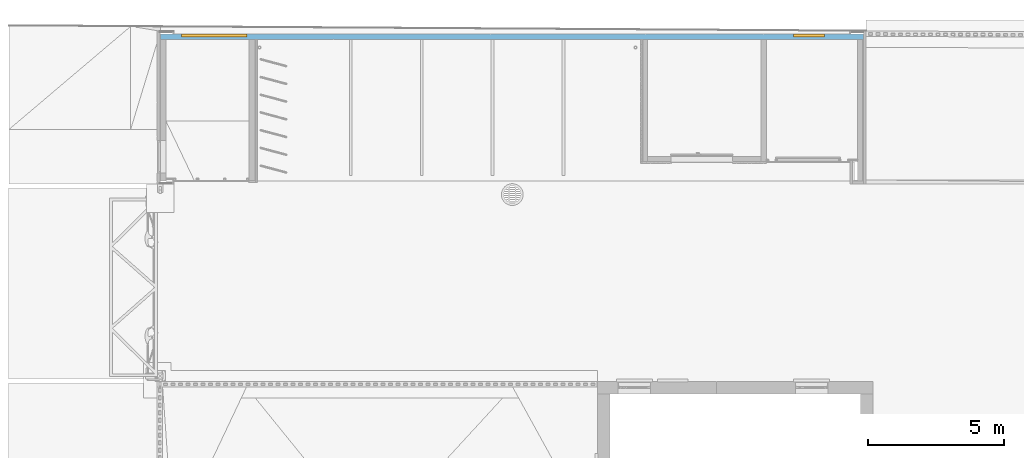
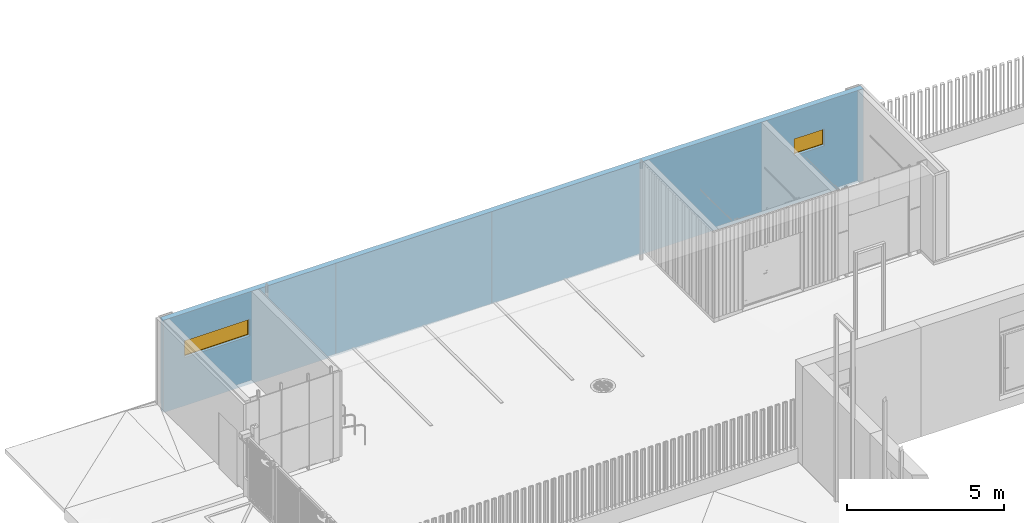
# One storey, part 59 of 77: 2 windows, 9 openings, plus 1 element that does not belong to this part.
"""IFC2X3 building model written with IfcOpenShell, lengths in millimetres."""

from ifc_helpers import new_model, entity, si_unit, converted_unit, derived_unit, direction, frame, frame_2d, origin, origin_2d_with_axis, place, context, subcontext, project, spatial, rectangle, extrude, faceted_brep, source, transform, mapped, material, material_list, layer, layer_set, layer_usage, type_object, type_shapes, element, fill, save


model = new_model("IFC2X3")

# Units and contexts
model_context = context("Model", 3, precision=0.01, world=origin(), true_north=direction((6.12303176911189e-17, 1.0)))
body_context = subcontext(model_context, "Body", "Model", "MODEL_VIEW")
ifc_project = project(units=[si_unit("LENGTHUNIT", "METRE", prefix="MILLI"), si_unit("AREAUNIT", "SQUARE_METRE"), si_unit("VOLUMEUNIT", "CUBIC_METRE"), converted_unit("PLANEANGLEUNIT", "DEGREE", entity("IfcRatioMeasure", 0.0174532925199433), si_unit("PLANEANGLEUNIT", "RADIAN"), dimensions=[0, 0, 0, 0, 0, 0, 0]), si_unit("MASSUNIT", "GRAM", prefix="KILO"), derived_unit("MASSDENSITYUNIT", [(si_unit("MASSUNIT", "GRAM", prefix="KILO"), 1), (si_unit("LENGTHUNIT", "METRE"), -3)]), si_unit("TIMEUNIT", "SECOND"), si_unit("FREQUENCYUNIT", "HERTZ"), si_unit("THERMODYNAMICTEMPERATUREUNIT", "DEGREE_CELSIUS"), derived_unit("THERMALTRANSMITTANCEUNIT", [(si_unit("MASSUNIT", "GRAM", prefix="KILO"), 1), (si_unit("THERMODYNAMICTEMPERATUREUNIT", "KELVIN"), -1), (si_unit("TIMEUNIT", "SECOND"), -3)]), derived_unit("VOLUMETRICFLOWRATEUNIT", [(si_unit("LENGTHUNIT", "METRE"), 3), (si_unit("TIMEUNIT", "SECOND"), -1)]), si_unit("ELECTRICCURRENTUNIT", "AMPERE"), si_unit("ELECTRICVOLTAGEUNIT", "VOLT"), si_unit("POWERUNIT", "WATT"), si_unit("FORCEUNIT", "NEWTON", prefix="KILO"), si_unit("ILLUMINANCEUNIT", "LUX"), si_unit("LUMINOUSFLUXUNIT", "LUMEN"), si_unit("LUMINOUSINTENSITYUNIT", "CANDELA"), derived_unit("USERDEFINED", [(si_unit("MASSUNIT", "GRAM", prefix="KILO"), -1), (si_unit("LENGTHUNIT", "METRE"), -2), (si_unit("TIMEUNIT", "SECOND"), 3), (si_unit("LUMINOUSFLUXUNIT", "LUMEN"), 1)]), derived_unit("LINEARVELOCITYUNIT", [(si_unit("LENGTHUNIT", "METRE"), 1), (si_unit("TIMEUNIT", "SECOND"), -1)]), si_unit("PRESSUREUNIT", "PASCAL"), derived_unit("USERDEFINED", [(si_unit("LENGTHUNIT", "METRE"), -2), (si_unit("MASSUNIT", "GRAM", prefix="KILO"), 1), (si_unit("TIMEUNIT", "SECOND"), -2)])], contexts=[model_context])

# Site, building, storey
site_placement = place(None, origin())
site = spatial("IfcSite", under=ifc_project, at=site_placement, Name="Default", CompositionType="ELEMENT")
building_placement = place(site_placement, origin())
building = spatial("IfcBuilding", under=site, at=building_placement, CompositionType="ELEMENT")
storey_placement = place(building_placement, origin())
storey = spatial("IfcBuildingStorey", under=building, at=storey_placement, Name="1. KORRUS", CompositionType="ELEMENT", Elevation=0.0)

# Wall, openings, windows
ifc_material_1 = material(Name="RECKLI 1 173 THUR by Polantis 2016-toon3")
ifc_layer_1 = layer(ifc_material_1, 30.0)
ifc_material_2 = material(Name="Default New Material(1)")
ifc_layer_2 = layer(ifc_material_2, 170.0)
ifc_layer_set = layer_set([ifc_layer_1, ifc_layer_2], Name="Basic Wall:VS-10_rb200_terracota")
ifc_layer_usage = layer_usage(ifc_layer_set, "AXIS2", "NEGATIVE", 100.0)
wall_type = type_object("IfcWallType", Name="Basic Wall:VS-10_rb200_terracota", PredefinedType="STANDARD", material=ifc_layer_set)
wall_placement = place(storey_placement, frame((-16475.2351867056, 40700.0994344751, -200.0)))
wall = element("IfcWallStandardCase", 1, at=wall_placement, inside=storey, type_object=wall_type, material=ifc_layer_usage, Name="Basic Wall:VS-10_rb200_terracota", ObjectType="Basic Wall:VS-10_rb200_terracota", context=body_context, shape_type="SweptSolid", body=[
    extrude(rectangle(XDim=25775.0, YDim=200.000000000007, at=frame_2d((12887.5, 0.0), x_axis=(-1.0, 0.0))), origin(), (0.0, 0.0, 1.0), 3600.0),
])
opening_1_placement = place(wall_placement, origin())
element("IfcOpeningElement", 2, at=opening_1_placement, cuts=wall, Name="Basic Wall:VS-10_rb200_terracota", ObjectType="Recess", context=body_context, shape_type="SweptSolid", body=[
    extrude(rectangle(XDim=400.0, YDim=25775.0, at=frame_2d((0.0, 0.0), x_axis=(0.0, 1.0))), frame((12887.5, 80.0, 50.0), z_axis=(0.0, 1.0, 0.0), x_axis=(1.0, 0.0, 0.0)), (0.0, 0.0, 1.0), 20.0000000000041),
])
opening_2_placement = place(wall_placement, origin())
element("IfcOpeningElement", 3, at=opening_2_placement, cuts=wall, Name="Basic Wall:VS-10_rb200_terracota", ObjectType="Recess", context=body_context, shape_type="SweptSolid", body=[
    extrude(rectangle(XDim=3600.0, YDim=15.9999999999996, at=origin_2d_with_axis()), frame((22120.0051867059, 80.0, 1800.0), z_axis=(0.0, 1.0, 0.0), x_axis=(0.0, 0.0, 1.0)), (0.0, 0.0, 1.0), 20.0000000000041),
])
opening_3_placement = place(wall_placement, origin())
element("IfcOpeningElement", 4, at=opening_3_placement, cuts=wall, Name="Basic Wall:VS-10_rb200_terracota", ObjectType="Recess", context=body_context, shape_type="SweptSolid", body=[
    extrude(rectangle(XDim=3600.0, YDim=15.9999999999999, at=frame_2d((0.0, -1.35447209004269e-13), x_axis=(1.0, 0.0))), frame((17769.997856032, 80.0, 1800.0), z_axis=(0.0, 1.0, 0.0), x_axis=(0.0, 0.0, 1.0)), (0.0, 0.0, 1.0), 20.0000000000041),
])
opening_4_placement = place(wall_placement, origin())
element("IfcOpeningElement", 5, at=opening_4_placement, cuts=wall, Name="Basic Wall:VS-10_rb200_terracota", ObjectType="Recess", context=body_context, shape_type="SweptSolid", body=[
    extrude(rectangle(XDim=3600.0, YDim=16.0000000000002, at=frame_2d((0.0, 2.70450328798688e-13), x_axis=(1.0, 0.0))), frame((12082.0008264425, 80.0, 1800.0), z_axis=(0.0, 1.0, 0.0), x_axis=(0.0, 0.0, 1.0)), (0.0, 0.0, 1.0), 20.0000000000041),
])
opening_5_placement = place(wall_placement, origin())
element("IfcOpeningElement", 6, at=opening_5_placement, cuts=wall, Name="Basic Wall:VS-10_rb200_terracota", ObjectType="Recess", context=body_context, shape_type="SweptSolid", body=[
    extrude(rectangle(XDim=3600.0, YDim=16.0000000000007, at=origin_2d_with_axis()), frame((6341.00082644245, 80.0, 1800.0), z_axis=(0.0, 1.0, 0.0), x_axis=(0.0, 0.0, 1.0)), (0.0, 0.0, 1.0), 20.0000000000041),
])
opening_6_placement = place(wall_placement, origin())
element("IfcOpeningElement", 7, at=opening_6_placement, cuts=wall, Name="Basic Wall:VS-10_rb200_terracota", ObjectType="Recess", context=body_context, shape_type="SweptSolid", body=[
    extrude(rectangle(XDim=3600.0, YDim=16.0000000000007, at=frame_2d((0.0, 1.08268949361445e-12), x_axis=(1.0, 0.0))), frame((6340.31089902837, -100.0, 1800.0), z_axis=(0.0, 1.0, 0.0), x_axis=(0.0, 0.0, -1.0)), (0.0, 0.0, 1.0), 20.0000000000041),
])
opening_7_placement = place(wall_placement, origin())
element("IfcOpeningElement", 8, at=opening_7_placement, cuts=wall, Name="Basic Wall:VS-10_rb200_terracota", ObjectType="Recess", context=body_context, shape_type="SweptSolid", body=[
    extrude(rectangle(XDim=3600.0, YDim=16.0000000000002, at=frame_2d((0.0, -2.70450328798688e-13), x_axis=(1.0, 0.0))), frame((12081.703389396, -100.0, 1800.0), z_axis=(0.0, 1.0, 0.0), x_axis=(0.0, 0.0, -1.0)), (0.0, 0.0, 1.0), 20.0000000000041),
])
opening_8_placement = place(wall_placement, frame((770.0, -100.0, 1872.0)))
opening_8 = element("IfcOpeningElement", 9, at=opening_8_placement, cuts=wall, Name="vent-rest2:2400x660:1", ObjectType="Opening", context=body_context, shape_type="SweptSolid", body=[
    extrude(rectangle(XDim=659.999999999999, YDim=2400.0, at=frame_2d((330.0, 1200.0), x_axis=(-1.0, 0.0))), frame((0.0, 0.0, 0.0), z_axis=(0.0, 1.0, 0.0), x_axis=(0.0, 0.0, 1.0)), (0.0, 0.0, 1.0), 200.0),
])
opening_9_placement = place(wall_placement, frame((23211.7593711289, -100.0, 1872.0)))
opening_9 = element("IfcOpeningElement", 10, at=opening_9_placement, cuts=wall, Name="vent-rest2:1127x660:1", ObjectType="Opening", context=body_context, shape_type="SweptSolid", body=[
    extrude(rectangle(XDim=659.999999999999, YDim=1127.0, at=frame_2d((330.0, 563.500000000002), x_axis=(-1.0, 0.0))), frame((0.0, 0.0, 0.0), z_axis=(0.0, 1.0, 0.0), x_axis=(0.0, 0.0, 1.0)), (0.0, 0.0, 1.0), 200.0),
])
ifc_material_3 = material(Name="must")
ifc_material_4 = material(Name="Default New Material-al-profiilid")
ifc_material_list_1 = material_list([ifc_material_3, ifc_material_4])
ifc_material_list_2 = material_list([ifc_material_3, ifc_material_4])
window_style_1 = type_object("IfcWindowStyle", Name="1127x660", ConstructionType="NOTDEFINED", OperationType="NOTDEFINED", ParameterTakesPrecedence=False, Sizeable=False, material=ifc_material_list_2)
shared_shape_1 = source(origin(), body_context, "Body", "Brep", [
    faceted_brep([(0.0, 120.0, 655.0), (0.0, 120.0, 5.0), (1127.0, 120.0, 5.0), (1127.0, 120.0, 655.0), (0.0, 200.0, 655.0), (1127.0, 200.0, 655.0), (1127.0, 200.0, 5.0), (0.0, 200.0, 5.0)], [[[0, 1, 2, 3]], [[4, 5, 6, 7]], [[1, 0, 4, 7]], [[2, 1, 7, 6]], [[3, 2, 6, 5]], [[0, 3, 5, 4]]]),
    faceted_brep([(5.0, 205.0, 655.0), (5.0, 95.0, 655.0), (5.0, 95.0, 5.0), (5.0, 205.0, 5.0), (0.0, 95.0, 0.0), (1127.0, 95.0, 0.0), (1127.0, 95.0, 660.0), (0.0, 95.0, 660.0), (1122.0, 95.0, 655.0), (1122.0, 95.0, 5.0), (1122.0, 205.0, 5.0), (1122.0, 205.0, 655.0), (-40.0, 205.0, 700.0), (1167.0, 205.0, 700.0), (1167.0, 205.0, -40.0), (-40.0, 205.0, -40.0), (-40.0, 200.0, 700.0), (-40.0, 200.0, -40.0), (1167.0, 200.0, -40.0), (1167.0, 200.0, 700.0), (0.0, 200.0, 660.0), (1127.0, 200.0, 660.0), (1127.0, 200.0, 0.0), (0.0, 200.0, 0.0)], [[[0, 1, 2, 3]], [[4, 5, 6, 7], [1, 8, 9, 2]], [[3, 2, 9, 10]], [[3, 10, 11, 0], [12, 13, 14, 15]], [[16, 12, 15, 17]], [[17, 15, 14, 18]], [[17, 18, 19, 16], [20, 21, 22, 23]], [[7, 20, 23, 4]], [[4, 23, 22, 5]], [[10, 9, 8, 11]], [[18, 14, 13, 19]], [[5, 22, 21, 6]], [[11, 8, 1, 0]], [[19, 13, 12, 16]], [[6, 21, 20, 7]]], outer=[[True], [True, False], [True], [False, True], [True], [True], [True, False], [True], [True], [True], [True], [True], [True], [True], [True]]),
])
type_shapes(window_style_1, [shared_shape_1])
window_1_placement = place(opening_9_placement, origin())
window_1 = element("IfcWindow", 11, at=window_1_placement, inside=storey, type_object=window_style_1, material=ifc_material_list_1, Name="vent-rest2:1127x660", ObjectType="1127x660", OverallHeight=659.999999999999, OverallWidth=1127.0, context=body_context, shape_type="MappedRepresentation", body=[
    mapped(shared_shape_1, transform((0.0, 0.0, 0.0), scale=1.0)),
])
fill(opening_9, window_1)
ifc_material_list_3 = material_list([ifc_material_3, ifc_material_4])
ifc_material_list_4 = material_list([ifc_material_3, ifc_material_4])
window_style_2 = type_object("IfcWindowStyle", Name="2400x660", ConstructionType="NOTDEFINED", OperationType="NOTDEFINED", ParameterTakesPrecedence=False, Sizeable=False, material=ifc_material_list_4)
shared_shape_2 = source(origin(), body_context, "Body", "Brep", [
    faceted_brep([(0.0, 120.0, 655.0), (0.0, 120.0, 5.0), (2400.0, 120.0, 5.0), (2400.0, 120.0, 655.0), (0.0, 200.0, 655.0), (2400.0, 200.0, 655.0), (2400.0, 200.0, 5.0), (0.0, 200.0, 5.0)], [[[0, 1, 2, 3]], [[4, 5, 6, 7]], [[1, 0, 4, 7]], [[2, 1, 7, 6]], [[3, 2, 6, 5]], [[0, 3, 5, 4]]]),
    faceted_brep([(5.0, 205.0, 655.0), (5.0, 95.0, 655.0), (5.0, 95.0, 5.0), (5.0, 205.0, 5.0), (0.0, 95.0, 0.0), (2400.0, 95.0, 0.0), (2400.0, 95.0, 660.0), (0.0, 95.0, 660.0), (2395.0, 95.0, 655.0), (2395.0, 95.0, 5.0), (2395.0, 205.0, 5.0), (2395.0, 205.0, 655.0), (-40.0, 205.0, 700.0), (2440.0, 205.0, 700.0), (2440.0, 205.0, -40.0), (-40.0, 205.0, -40.0), (-40.0, 200.0, 700.0), (-40.0, 200.0, -40.0), (2440.0, 200.0, -40.0), (2440.0, 200.0, 700.0), (0.0, 200.0, 660.0), (2400.0, 200.0, 660.0), (2400.0, 200.0, 0.0), (0.0, 200.0, 0.0)], [[[0, 1, 2, 3]], [[4, 5, 6, 7], [1, 8, 9, 2]], [[3, 2, 9, 10]], [[3, 10, 11, 0], [12, 13, 14, 15]], [[16, 12, 15, 17]], [[17, 15, 14, 18]], [[17, 18, 19, 16], [20, 21, 22, 23]], [[7, 20, 23, 4]], [[4, 23, 22, 5]], [[10, 9, 8, 11]], [[18, 14, 13, 19]], [[5, 22, 21, 6]], [[11, 8, 1, 0]], [[19, 13, 12, 16]], [[6, 21, 20, 7]]], outer=[[True], [True, False], [True], [False, True], [True], [True], [True, False], [True], [True], [True], [True], [True], [True], [True], [True]]),
])
type_shapes(window_style_2, [shared_shape_2])
window_2_placement = place(opening_8_placement, origin())
window_2 = element("IfcWindow", 12, at=window_2_placement, inside=storey, type_object=window_style_2, material=ifc_material_list_3, Name="vent-rest2:2400x660", ObjectType="2400x660", OverallHeight=659.999999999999, OverallWidth=2400.0, context=body_context, shape_type="MappedRepresentation", body=[
    mapped(shared_shape_2, transform((0.0, 0.0, 0.0), scale=1.0)),
])
fill(opening_8, window_2)

save(model, "model.ifc")
